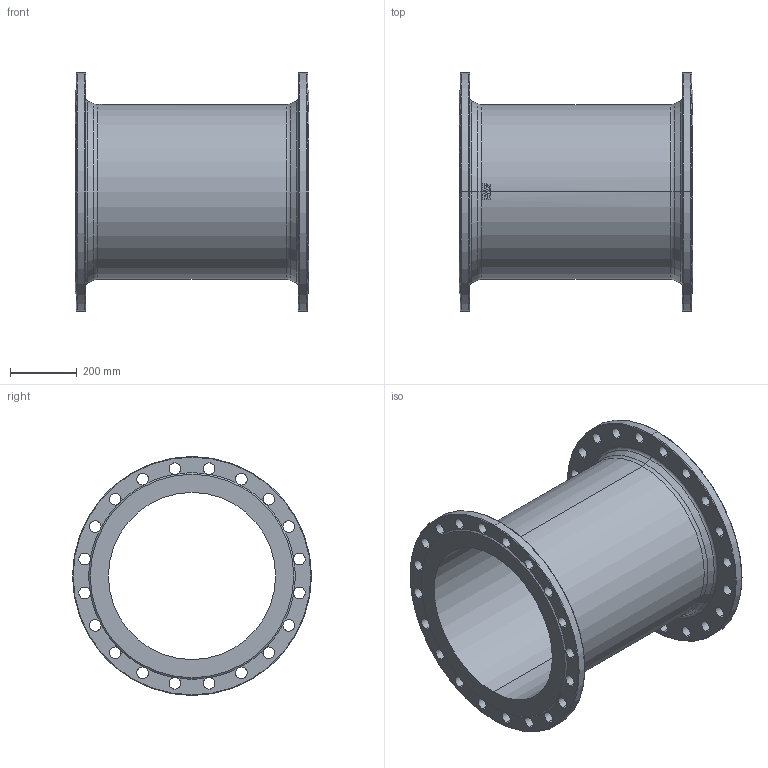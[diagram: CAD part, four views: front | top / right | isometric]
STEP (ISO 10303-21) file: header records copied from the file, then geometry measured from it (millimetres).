
FILE_DESCRIPTION (( 'STEP AP203' ), '1' );
FILE_NAME ('O_712_5010_DN500_1X_REV01.step', '2021-12-03T10:24:40', ( '' ), ( '' ), 'SwSTEP 2.0', 'SolidWorks 2019', '' );
FILE_SCHEMA (( 'CONFIG_CONTROL_DESIGN' ));
Length unit declared in the file: millimetre
Products named in the file (1): O_712_5010_DN500_1X_REV01
Bounding box: 700 x 715 x 715 mm (x, y, z)
Volume: 22994294.4 mm3; surface area: 3056897.4 mm2
Topology: 1 solids, 1 shells, 160 faces, 551 edges, 360 vertices
Faces by surface type: cylinder 93, plane 26, bspline 17, torus 16, cone 8
Entity records: 7382 total; most frequent: CARTESIAN_POINT 2303, ORIENTED_EDGE 1102, DIRECTION 1083, EDGE_CURVE 551, AXIS2_PLACEMENT_3D 470, VERTEX_POINT 360, CIRCLE 326, EDGE_LOOP 209
